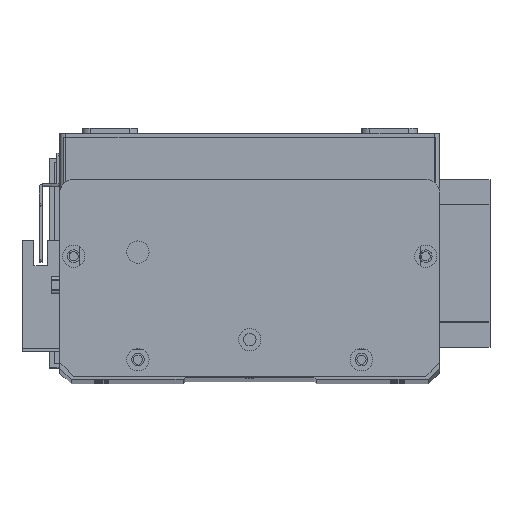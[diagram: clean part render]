
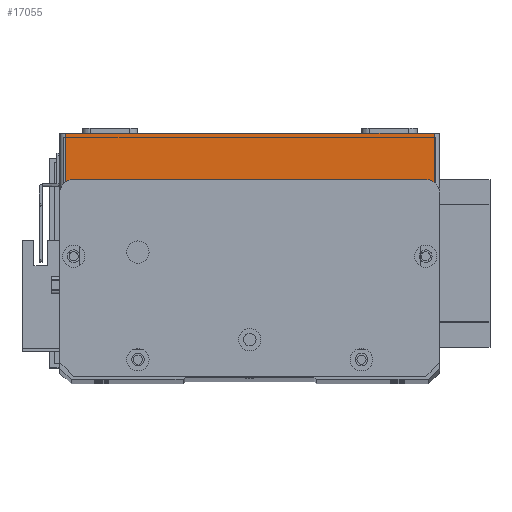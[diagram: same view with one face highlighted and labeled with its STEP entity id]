
A CAD part, top view. The second image highlights one B-rep face of the part: STEP entity #17055.
In plain terms, the highlighted planar face has unit normal (0, 0, 1) as drawn and (0, -1, 0) by its records, which use the part's own axes.
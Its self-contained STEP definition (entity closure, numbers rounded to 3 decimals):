
#2242 = EDGE_CURVE ( 'NONE', #17127, #13040, #28034, .T. ) ;
#2894 = EDGE_LOOP ( 'NONE', ( #27158, #4902, #15099, #19322 ) ) ;
#3296 = CARTESIAN_POINT ( 'NONE',  ( 0., 0., 19.5 ) ) ;
#4902 = ORIENTED_EDGE ( 'NONE', *, *, #19291, .T. ) ;
#5213 = DIRECTION ( 'NONE',  ( 0., 0., -1. ) ) ;
#5693 = CARTESIAN_POINT ( 'NONE',  ( 0., 0., 0. ) ) ;
#7069 = FACE_OUTER_BOUND ( 'NONE', #2894, .T. ) ;
#7891 = CARTESIAN_POINT ( 'NONE',  ( 134., 0., 19.5 ) ) ;
#7899 = VERTEX_POINT ( 'NONE', #13854 ) ;
#7950 = PLANE ( 'NONE',  #22783 ) ;
#7978 = DIRECTION ( 'NONE',  ( 1., 0., 0. ) ) ;
#8130 = CARTESIAN_POINT ( 'NONE',  ( 2., 0., 19.5 ) ) ;
#10129 = DIRECTION ( 'NONE',  ( 0., 0., 1. ) ) ;
#10184 = CARTESIAN_POINT ( 'NONE',  ( 0., 0., 19.5 ) ) ;
#11188 = LINE ( 'NONE', #20902, #16410 ) ;
#11695 = VECTOR ( 'NONE', #7978, 1000. ) ;
#13040 = VERTEX_POINT ( 'NONE', #15251 ) ;
#13854 = CARTESIAN_POINT ( 'NONE',  ( 134., 0., 0. ) ) ;
#14252 = VECTOR ( 'NONE', #10129, 1000. ) ;
#14713 = DIRECTION ( 'NONE',  ( 0., 0., 1. ) ) ;
#15099 = ORIENTED_EDGE ( 'NONE', *, *, #23835, .T. ) ;
#15251 = CARTESIAN_POINT ( 'NONE',  ( 134., 0., 19.5 ) ) ;
#16033 = VERTEX_POINT ( 'NONE', #17468 ) ;
#16410 = VECTOR ( 'NONE', #5213, 1000. ) ;
#17055 = ADVANCED_FACE ( 'NONE', ( #7069 ), #7950, .F. ) ;
#17127 = VERTEX_POINT ( 'NONE', #8130 ) ;
#17468 = CARTESIAN_POINT ( 'NONE',  ( 2., 0., 0. ) ) ;
#18954 = DIRECTION ( 'NONE',  ( 1., 0., 0. ) ) ;
#19291 = EDGE_CURVE ( 'NONE', #17127, #16033, #11188, .T. ) ;
#19322 = ORIENTED_EDGE ( 'NONE', *, *, #28735, .T. ) ;
#20902 = CARTESIAN_POINT ( 'NONE',  ( 2., 0., 19.5 ) ) ;
#21404 = VECTOR ( 'NONE', #18954, 1000. ) ;
#21621 = LINE ( 'NONE', #7891, #14252 ) ;
#22783 = AXIS2_PLACEMENT_3D ( 'NONE', #10184, #28067, #14713 ) ;
#23608 = LINE ( 'NONE', #5693, #11695 ) ;
#23835 = EDGE_CURVE ( 'NONE', #16033, #7899, #23608, .T. ) ;
#27158 = ORIENTED_EDGE ( 'NONE', *, *, #2242, .F. ) ;
#28034 = LINE ( 'NONE', #3296, #21404 ) ;
#28067 = DIRECTION ( 'NONE',  ( 0., 1., 0. ) ) ;
#28735 = EDGE_CURVE ( 'NONE', #7899, #13040, #21621, .T. ) ;
